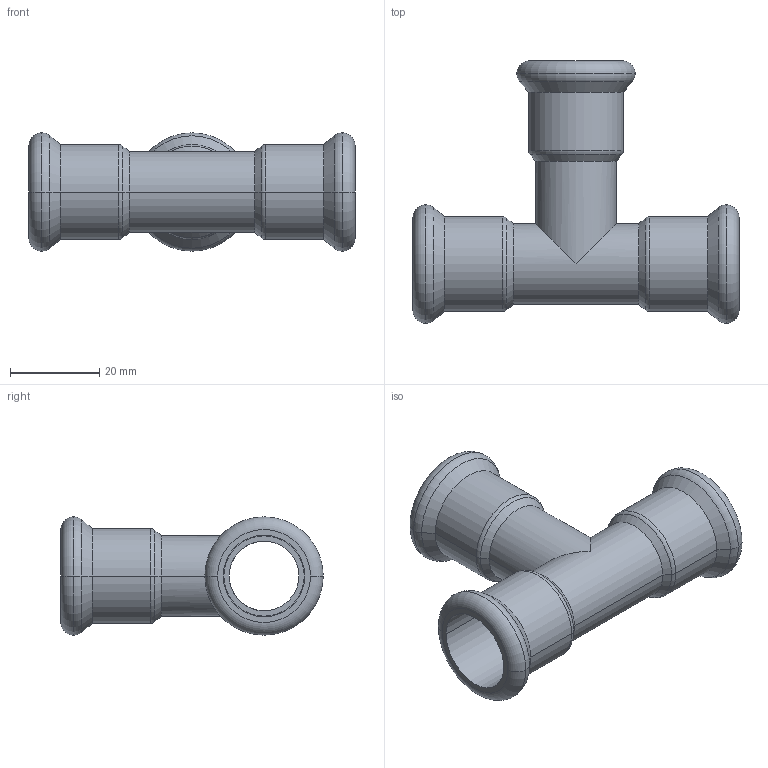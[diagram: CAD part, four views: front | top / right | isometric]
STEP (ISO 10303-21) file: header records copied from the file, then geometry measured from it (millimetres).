
FILE_DESCRIPTION(('CoCreate Modeling STEP Export'),'2;1');
FILE_NAME('C1414 18x18x18.stp','2014-11-11T16:55:08',(''),(''),'CoCreate Modeling STEP processor for AP214 (Solid Model)','CoCreate Modeling 17.00A 17-Jun-2010 (C) Parametric Technology GmbH','');
FILE_SCHEMA(('AUTOMOTIVE_DESIGN { 1 0 10303 214 1 1 1 1 }'));
Length unit declared in the file: millimetre
Products named in the file (2): C1414_18x18x18
Assembly tree (1 placements, depth 2):
  C1414_18x18x18
    C1414_18x18x18
Bounding box: 73 x 58.75 x 26.5 mm (x, y, z)
Volume: 11787.5 mm3; surface area: 14030 mm2
Topology: 1 solids, 1 shells, 65 faces, 141 edges, 83 vertices
Faces by surface type: cylinder 26, torus 18, cone 12, plane 9
Entity records: 1467 total; most frequent: ORIENTED_EDGE 282, DIRECTION 226, CARTESIAN_POINT 215, EDGE_CURVE 141, AXIS2_PLACEMENT_3D 94, VERTEX_POINT 83, EDGE_LOOP 74, FACE_OUTER_BOUND 65
